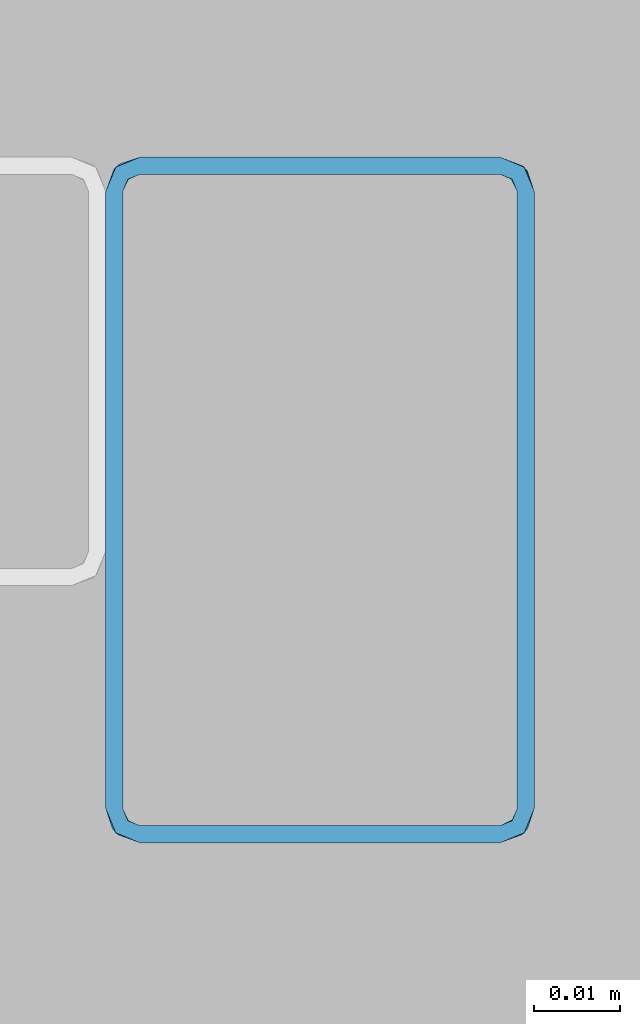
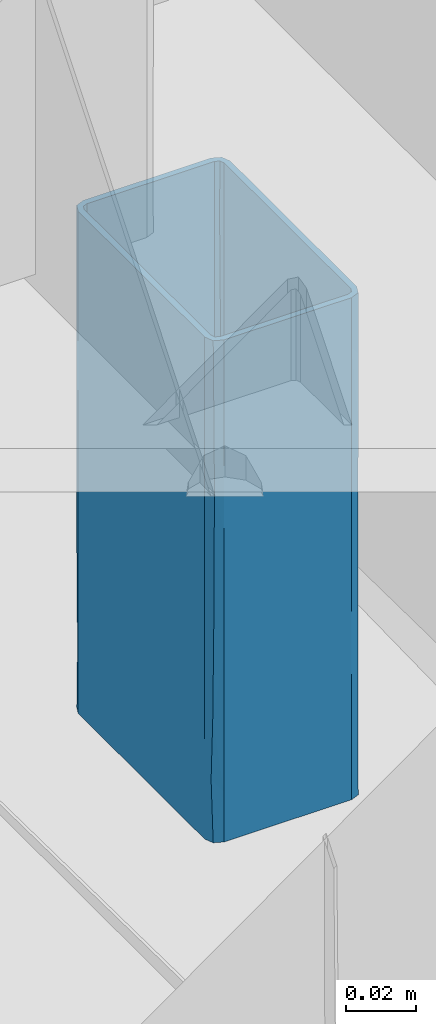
# One storey, part 149 of 186: 1 beam.
"""IFC4X3_ADD2 building model written with IfcOpenShell, lengths in millimetres."""

from ifc_helpers import new_model, si_unit, direction, frame, origin_with_axes, place, context, subcontext, project, spatial, polygons, element, save


model = new_model("IFC4X3_ADD2")

# Units and contexts
model_context = context("Model", 3, precision=1e-05, world=origin_with_axes(), true_north=direction((0.0, 1.0)))
body_context = subcontext(model_context, "Body", "Model", "MODEL_VIEW")
ifc_project = project(units=[si_unit("LENGTHUNIT", "METRE", prefix="MILLI"), si_unit("AREAUNIT", "SQUARE_METRE"), si_unit("VOLUMEUNIT", "CUBIC_METRE"), si_unit("PLANEANGLEUNIT", "RADIAN"), si_unit("TIMEUNIT", "SECOND"), si_unit("MASSUNIT", "GRAM")], contexts=[model_context])

# Site, building, storey
site_placement = place(None, origin_with_axes())
site = spatial("IfcSite", under=ifc_project, at=site_placement, Name="Site", CompositionType="ELEMENT")
building_placement = place(site_placement, origin_with_axes())
building = spatial("IfcBuilding", under=site, at=building_placement, Name="IFC Building Story")
storey_placement = place(building_placement, frame((0.0, 0.0, 4370.0), z_axis=(0.0, 0.0, 1.0), x_axis=(1.0, 0.0, 0.0)))
storey = spatial("IfcBuildingStorey", under=building, at=storey_placement, Name="ETAGE 10 (1)", Elevation=4370.0)

# Beam
beam_placement = place(storey_placement, frame((0.0, 0.0, -4370.0), z_axis=(0.0, 0.0, 1.0), x_axis=(1.0, 0.0, 0.0)))
element("IfcBeam", 1, at=beam_placement, inside=storey, Name="PS9", ObjectType="K50*80*2", context=body_context, shape_type="Tessellation", body=[
    polygons([(48403.18869887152, -14300.99999267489, 7529.38461931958), (48401.18869887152, -14300.99999267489, 7529.38461931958), (48403.77448530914, -14302.41420623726, 7529.38461931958), (48401.18869887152, -14228.99999267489, 7529.38461931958), (48403.18869887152, -14228.99999267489, 7529.38461931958), (48403.77448530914, -14227.58577911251, 7529.38461931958), (48402.36027174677, -14226.17156555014, 7529.38461931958), (48405.18869887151, -14224.99999267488, 7529.38461931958), (48405.18869887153, -14226.99999267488, 7529.38461931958), (48447.18869887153, -14226.99999267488, 7529.38461931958), (48447.18869887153, -14224.99999267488, 7529.38461931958), (48448.6029124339, -14227.58577911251, 7529.38461931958), (48450.01712599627, -14226.17156555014, 7529.38461931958), (48451.18869887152, -14228.99999267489, 7529.38461931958), (48449.18869887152, -14228.99999267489, 7529.38461931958), (48449.18869887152, -14300.99999267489, 7529.38461931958), (48451.18869887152, -14300.99999267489, 7529.38461931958), (48448.6029124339, -14302.41420623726, 7529.38461931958), (48450.01712599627, -14303.82841979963, 7529.38461931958), (48447.18869887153, -14304.99999267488, 7529.38461931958), (48447.18869887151, -14302.99999267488, 7529.38461931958), (48405.18869887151, -14304.99999267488, 7529.38461931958), (48405.18869887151, -14302.99999267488, 7529.38461931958), (48402.36027174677, -14303.82841979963, 7529.38461931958), (48449.18869887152, -14300.99999267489, 7355.004619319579), (48451.18869887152, -14300.99999267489, 7355.004619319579), (48448.6029124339, -14302.41420623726, 7355.004619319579), (48451.18869887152, -14228.99999267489, 7355.004619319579), (48449.18869887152, -14228.99999267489, 7355.004619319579), (48448.6029124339, -14227.58577911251, 7355.004619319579), (48450.01712599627, -14226.17156555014, 7355.004619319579), (48447.18869887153, -14224.99999267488, 7355.004619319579), (48447.18869887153, -14226.99999267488, 7355.004619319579), (48405.18869887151, -14226.99999267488, 7355.004619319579), (48405.18869887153, -14224.99999267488, 7355.004619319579), (48403.77448530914, -14227.58577911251, 7355.004619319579), (48402.36027174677, -14226.17156555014, 7355.004619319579), (48401.18869887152, -14228.99999267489, 7355.004619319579), (48403.18869887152, -14228.99999267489, 7355.004619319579), (48403.18869887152, -14300.99999267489, 7355.004619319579), (48401.18869887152, -14300.99999267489, 7355.004619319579), (48403.77448530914, -14302.41420623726, 7355.004619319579), (48402.36027174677, -14303.82841979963, 7355.004619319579), (48405.18869887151, -14304.99999267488, 7355.004619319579), (48405.18869887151, -14302.99999267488, 7355.004619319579), (48447.18869887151, -14304.99999267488, 7355.004619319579), (48447.18869887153, -14302.99999267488, 7355.004619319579), (48450.01712599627, -14303.82841979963, 7355.004619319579), (48401.18869887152, -14228.99999267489, 7511.926096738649), (48401.18869887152, -14228.99999267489, 7485.789617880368), (48401.18869887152, -14228.99999267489, 7463.992120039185), (48401.18869887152, -14228.99999267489, 7442.19461931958), (48401.18869887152, -14228.99999267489, 7420.397118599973), (48401.18869887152, -14228.99999267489, 7398.599620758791), (48401.18869887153, -14228.99999267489, 7372.463141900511), (48401.18869887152, -14300.99999267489, 7389.921664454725), (48401.18869887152, -14300.99999267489, 7407.277574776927), (48401.18869887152, -14300.99999267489, 7433.414051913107), (48401.18869887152, -14300.99999267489, 7459.550529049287), (48401.18869887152, -14300.99999267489, 7477.009052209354), (48401.18869887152, -14300.99999267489, 7494.467574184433), (48402.2778242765, -14303.74349574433, 7398.599621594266), (48405.18869887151, -14304.99999267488, 7420.397119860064), (48402.49011275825, -14303.95255647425, 7431.295871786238), (48405.18869887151, -14304.99999267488, 7372.463140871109), (48401.9483212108, -14303.34519045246, 7376.72287603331), (48402.53356876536, -14303.99169522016, 7498.857858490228), (48405.18869887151, -14304.99999267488, 7442.19461931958), (48405.18869887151, -14304.99999267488, 7511.926097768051), (48402.55884567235, -14304.01393895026, 7455.854339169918), (48405.18869887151, -14304.99999267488, 7398.59961823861), (48402.62562266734, -14304.07092744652, 7477.36024630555), (48405.18869887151, -14304.99999267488, 7485.789620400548), (48405.18869887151, -14304.99999267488, 7463.992118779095), (48447.18869887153, -14304.99999267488, 7372.463142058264), (48447.18869887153, -14304.99999267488, 7398.59961931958), (48447.18869887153, -14304.99999267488, 7420.397119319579), (48447.18869887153, -14304.99999267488, 7442.19461931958), (48447.18869887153, -14304.99999267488, 7463.992119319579), (48447.18869887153, -14304.99999267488, 7485.789619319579), (48447.18869887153, -14304.99999267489, 7511.926096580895), (48451.18869887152, -14300.99999267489, 7389.921665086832), (48449.84382889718, -14303.9916952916, 7385.53138470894), (48450.09957345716, -14303.7434957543, 7485.789620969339), (48449.88728500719, -14303.95255645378, 7453.093371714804), (48451.18869887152, -14300.99999267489, 7477.111664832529), (48451.18869887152, -14300.99999267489, 7494.467573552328), (48450.42907649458, -14303.34519050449, 7507.666364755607), (48449.81855215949, -14304.01393887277, 7428.534906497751), (48451.18869887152, -14300.99999267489, 7424.83871034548), (48451.18869887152, -14300.99999267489, 7450.975187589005), (48449.7517753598, -14304.07092720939, 7407.028998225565), (48451.18869887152, -14300.99999267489, 7407.380187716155), (48451.18869887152, -14228.99999267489, 7389.92166434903), (48451.18869887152, -14228.99999267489, 7416.058141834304), (48451.18869887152, -14228.99999267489, 7442.19461931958), (48451.18869887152, -14228.99999267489, 7463.992119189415), (48451.18869887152, -14228.99999267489, 7485.789619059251), (48451.18869887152, -14228.99999267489, 7511.926096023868), (48450.18040139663, -14226.344862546, 7498.857859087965), (48450.03662467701, -14226.19119958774, 7472.334605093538), (48447.18869887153, -14224.99999267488, 7494.467574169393), (48450.01712611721, -14226.17156567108, 7398.599623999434), (48450.41884628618, -14226.64072421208, 7376.802122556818), (48449.8427820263, -14226.00736128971, 7446.482292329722), (48449.91510073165, -14226.07309450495, 7422.535377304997), (48447.18869887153, -14224.99999267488, 7433.414050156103), (48447.18869887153, -14224.99999267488, 7389.921664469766), (48447.18869887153, -14224.99999267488, 7407.277572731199), (48447.18869887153, -14224.99999267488, 7459.550527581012), (48405.18869887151, -14224.99999267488, 7389.921665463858), (48405.18869887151, -14224.99999267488, 7407.277574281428), (48405.18869887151, -14224.99999267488, 7433.414051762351), (48405.18869887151, -14224.99999267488, 7459.550529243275), (48405.18869887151, -14224.99999267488, 7477.009051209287), (48405.18869887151, -14224.99999267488, 7494.467574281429), (48402.44519583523, -14226.08911804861, 7398.599622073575), (48402.23613508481, -14226.30140654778, 7431.295872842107), (48402.84350110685, -14225.75961500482, 7376.722876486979), (48402.19699633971, -14226.34486255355, 7498.85785887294), (48402.174752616, -14226.37013945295, 7455.854339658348), (48402.11776412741, -14226.43691643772, 7477.360246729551), (48405.18869887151, -14226.99999267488, 7480.004460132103), (48403.77448535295, -14227.5857790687, 7486.176980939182), (48403.77448534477, -14227.58577907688, 7472.971613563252), (48403.762337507, -14227.5980321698, 7386.463759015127), (48403.69269343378, -14227.67260134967, 7373.522180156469), (48405.18869887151, -14226.99999267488, 7373.909539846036), (48403.18869887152, -14228.99999267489, 7420.397119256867), (48403.18869887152, -14228.99999267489, 7409.498369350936), (48403.73229899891, -14227.62926315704, 7414.947746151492), (48403.75207338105, -14227.6085519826, 7449.141862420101), (48403.18869887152, -14228.99999267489, 7442.19461931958), (48403.90234918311, -14227.46855397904, 7438.221819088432), (48405.18869887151, -14226.99999267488, 7455.314380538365), (48403.84825054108, -14227.51567523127, 7461.00510020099), (48405.18869887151, -14226.99999267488, 7392.814459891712), (48403.18869887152, -14228.99999267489, 7367.349659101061), (48403.18869887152, -14228.99999267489, 7517.039579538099), (48403.18869887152, -14228.99999267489, 7492.34950022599), (48403.18869887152, -14228.99999267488, 7480.004460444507), (48405.18869887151, -14226.99999267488, 7492.349499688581), (48403.82248151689, -14227.53935920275, 7498.522020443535), (48403.84233664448, -14227.5210373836, 7398.285702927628), (48403.18869887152, -14228.99999267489, 7398.599619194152), (48405.18869887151, -14226.99999267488, 7517.039579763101), (48403.77448533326, -14227.5857790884, 7510.867059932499), (48405.18869887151, -14226.99999267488, 7504.694539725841), (48403.18869887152, -14228.99999267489, 7504.694540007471), (48403.18869887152, -14228.99999267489, 7379.694698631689), (48403.18869887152, -14228.99999267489, 7461.099539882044), (48405.18869887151, -14226.99999267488, 7467.659420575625), (48405.18869887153, -14226.99999267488, 7411.719380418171), (48405.18869887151, -14226.99999267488, 7430.624300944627), (48403.69095856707, -14227.67455916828, 7427.406743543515), (48403.18869887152, -14228.99999267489, 7431.295869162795), (48405.18869887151, -14226.99999267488, 7442.969340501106), (48447.18869887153, -14226.99999267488, 7367.349659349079), (48447.18869887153, -14226.99999267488, 7376.802119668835), (48447.18869887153, -14226.99999267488, 7387.700869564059), (48447.18869887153, -14226.99999267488, 7398.599619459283), (48447.18869887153, -14226.99999267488, 7409.498369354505), (48447.18869887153, -14226.99999267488, 7420.397119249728), (48447.18869887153, -14226.99999267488, 7431.295869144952), (48447.18869887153, -14226.99999267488, 7442.194619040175), (48447.18869887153, -14226.99999267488, 7453.093368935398), (48447.18869887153, -14226.99999267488, 7463.992118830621), (48447.18869887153, -14226.99999267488, 7474.890868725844), (48447.18869887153, -14226.99999267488, 7485.789619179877), (48447.18869887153, -14226.99999267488, 7504.694539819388), (48447.18869887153, -14226.99999267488, 7517.039579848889), (48448.49995586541, -14227.48982543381, 7405.362373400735), (48448.53825077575, -14227.52394739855, 7393.150245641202), (48448.57894189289, -14227.56220814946, 7448.441924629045), (48448.69067101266, -14227.67935658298, 7460.874047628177), (48448.4083444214, -14227.41491705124, 7382.566985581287), (48449.18869887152, -14228.99999267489, 7510.479698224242), (48448.5160902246, -14227.50398726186, 7510.867060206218), (48449.18869887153, -14228.99999267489, 7367.349658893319), (48449.18869887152, -14228.99999267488, 7404.384778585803), (48449.18869887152, -14228.99999267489, 7392.039739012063), (48448.67185384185, -14227.658258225, 7422.902339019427), (48449.18869887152, -14228.99999267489, 7379.694698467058), (48448.60291241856, -14227.58577909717, 7372.075889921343), (48448.59065938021, -14227.5736313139, 7497.925482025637), (48448.61548330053, -14227.5984627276, 7435.851234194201), (48449.18869887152, -14228.99999267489, 7429.074858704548), (48449.18869887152, -14228.99999267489, 7416.729818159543), (48449.18869887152, -14228.99999267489, 7441.419898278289), (48449.18869887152, -14228.99999267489, 7491.574778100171), (48448.66617873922, -14227.65201150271, 7480.340245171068), (48449.18869887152, -14228.99999267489, 7472.669857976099), (48449.18869887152, -14228.99999267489, 7453.764937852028), (48449.18869887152, -14300.99999267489, 7367.349659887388), (48449.18869887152, -14300.99999267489, 7376.802119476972), (48449.18869887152, -14300.99999267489, 7387.700868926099), (48449.18869887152, -14300.99999267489, 7398.599619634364), (48449.18869887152, -14300.99999267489, 7409.498370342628), (48449.18869887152, -14300.99999267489, 7420.397119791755), (48449.18869887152, -14300.99999267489, 7431.295869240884), (48449.18869887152, -14300.99999267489, 7442.194619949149), (48449.18869887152, -14300.99999267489, 7453.093370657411), (48449.18869887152, -14300.99999267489, 7463.992120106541), (48449.18869887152, -14300.99999267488, 7474.890869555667), (48449.18869887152, -14300.99999267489, 7485.789620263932), (48449.18869887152, -14300.99999267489, 7504.694540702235), (48449.18869887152, -14300.99999267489, 7517.039580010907), (48448.6988661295, -14302.3112496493, 7405.362373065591), (48448.66474415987, -14302.34954456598, 7393.150245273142), (48448.62648341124, -14302.39023568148, 7448.441924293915), (48448.50933497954, -14302.50196480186, 7460.874047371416), (48448.77377449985, -14302.21963821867, 7382.566985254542), (48447.18869887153, -14302.99999267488, 7510.479699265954), (48448.684704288, -14302.32738402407, 7510.867060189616), (48447.18869887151, -14302.99999267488, 7367.349659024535), (48447.18869887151, -14302.99999267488, 7404.384778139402), (48447.18869887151, -14302.99999267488, 7392.039738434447), (48448.53043334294, -14302.48314762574, 7422.902338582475), (48448.60291244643, -14302.41420622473, 7372.075889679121), (48448.61506023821, -14302.40195317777, 7497.925481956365), (48448.59022884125, -14302.42677708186, 7435.851233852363), (48447.18869887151, -14302.99999267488, 7379.694698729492), (48447.18869887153, -14302.99999267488, 7429.074857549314), (48447.18869887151, -14302.99999267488, 7416.72981784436), (48447.18869887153, -14302.99999267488, 7441.419897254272), (48447.18869887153, -14302.99999267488, 7491.574778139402), (48448.53668005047, -14302.4774725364, 7480.340245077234), (48447.18869887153, -14302.99999267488, 7472.669857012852), (48447.18869887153, -14302.99999267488, 7453.764936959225), (48405.18869887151, -14302.99999267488, 7367.349659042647), (48405.18869887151, -14302.99999267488, 7379.694698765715), (48405.18869887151, -14302.99999267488, 7392.03973848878), (48405.18869887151, -14302.99999267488, 7404.384778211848), (48405.18869887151, -14302.99999267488, 7416.729817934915), (48405.18869887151, -14302.99999267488, 7429.074857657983), (48405.18869887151, -14302.99999267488, 7441.419897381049), (48405.18869887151, -14302.99999267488, 7453.764937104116), (48405.18869887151, -14302.99999267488, 7472.669857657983), (48405.18869887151, -14302.99999267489, 7491.574778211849), (48405.18869887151, -14302.99999267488, 7510.479698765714), (48403.76233749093, -14302.40195316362, 7497.925482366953), (48403.69269344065, -14302.32738400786, 7510.867060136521), (48403.84825044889, -14302.48431003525, 7423.384142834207), (48403.75207328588, -14302.39143326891, 7435.247379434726), (48403.77448535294, -14302.41420628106, 7373.522182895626), (48403.77448537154, -14302.41420629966, 7386.727548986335), (48403.18869887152, -14300.99999267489, 7379.694699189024), (48403.18869887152, -14300.99999267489, 7463.992119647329), (48403.18869887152, -14300.99999267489, 7474.890869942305), (48403.73229892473, -14302.3707221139, 7469.441496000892), (48403.18869887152, -14300.99999267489, 7517.039579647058), (48403.18869887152, -14300.99999267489, 7367.349659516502), (48403.90234900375, -14302.53143122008, 7446.16742321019), (48403.84233657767, -14302.47894790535, 7486.103539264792), (48403.18869887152, -14300.99999267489, 7485.789619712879), (48403.18869887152, -14300.99999267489, 7392.039738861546), (48403.7113880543, -14302.34815911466, 7398.682110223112), (48403.18869887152, -14300.99999267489, 7504.694539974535), (48403.77000637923, -14302.40971307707, 7410.639040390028), (48403.6909585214, -14302.32542612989, 7456.982499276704), (48403.18869887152, -14300.99999267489, 7453.093369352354), (48403.18869887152, -14300.99999267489, 7442.194619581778), (48403.18869887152, -14300.99999267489, 7423.289699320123), (48403.18869887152, -14300.99999267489, 7404.384779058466)], [[[1, 2, 3]], [[2, 1, 4]], [[5, 4, 1]], [[6, 4, 5]], [[7, 4, 6]], [[6, 8, 7]], [[6, 9, 8]], [[8, 9, 10]], [[10, 11, 8]], [[10, 12, 11]], [[11, 12, 13]], [[14, 13, 12]], [[14, 12, 15]], [[14, 15, 16]], [[16, 17, 14]], [[18, 17, 16]], [[17, 18, 19]], [[18, 20, 19]], [[21, 20, 18]], [[20, 21, 22]], [[23, 22, 21]], [[3, 22, 23]], [[22, 3, 24]], [[3, 2, 24]], [[25, 26, 27]], [[26, 25, 28]], [[29, 28, 25]], [[30, 28, 29]], [[31, 28, 30]], [[30, 32, 31]], [[30, 33, 32]], [[32, 33, 34]], [[34, 35, 32]], [[34, 36, 35]], [[35, 36, 37]], [[38, 37, 36]], [[38, 36, 39]], [[38, 39, 40]], [[40, 41, 38]], [[42, 41, 40]], [[41, 42, 43]], [[42, 44, 43]], [[45, 44, 42]], [[44, 45, 46]], [[47, 46, 45]], [[27, 46, 47]], [[46, 27, 48]], [[27, 26, 48]], [[55, 38, 41]], [[55, 41, 56]], [[56, 57, 54]], [[56, 54, 55]], [[57, 58, 53]], [[57, 53, 54]], [[58, 52, 53]], [[58, 59, 51]], [[58, 51, 52]], [[60, 61, 50]], [[50, 51, 59]], [[50, 59, 60]], [[61, 49, 50]], [[61, 2, 4]], [[61, 4, 49]], [[62, 63, 64]], [[65, 62, 66]], [[2, 61, 67]], [[64, 63, 68]], [[69, 22, 24]], [[43, 44, 65]], [[62, 56, 66]], [[70, 59, 58]], [[57, 56, 62]], [[71, 63, 62, 65]], [[24, 2, 67]], [[59, 72, 61, 60]], [[41, 43, 66]], [[58, 64, 70]], [[64, 57, 62]], [[73, 69, 67]], [[64, 68, 70]], [[64, 58, 57]], [[70, 68, 74]], [[73, 67, 72]], [[41, 66, 56]], [[65, 66, 43]], [[24, 67, 69]], [[72, 59, 70]], [[72, 67, 61]], [[72, 74, 73]], [[74, 72, 70]], [[65, 44, 46]], [[65, 46, 75]], [[75, 76, 71]], [[75, 71, 65]], [[76, 77, 63]], [[76, 63, 71]], [[77, 78, 68]], [[77, 68, 63]], [[78, 79, 74]], [[78, 74, 68]], [[79, 80, 73]], [[79, 73, 74]], [[80, 81, 69]], [[80, 69, 73]], [[81, 20, 22]], [[81, 22, 69]], [[26, 82, 83]], [[80, 79, 84, 81]], [[85, 84, 79]], [[86, 87, 84]], [[85, 79, 78]], [[81, 84, 88]], [[84, 87, 88]], [[48, 26, 83]], [[89, 90, 91]], [[90, 92, 82, 93]], [[17, 19, 88]], [[91, 85, 89]], [[75, 83, 76]], [[85, 86, 84]], [[75, 46, 48]], [[19, 20, 81]], [[85, 78, 89]], [[85, 91, 86]], [[89, 78, 77]], [[76, 83, 92]], [[17, 88, 87]], [[81, 88, 19]], [[48, 83, 75]], [[92, 90, 89]], [[92, 83, 82]], [[92, 77, 76]], [[77, 92, 89]], [[82, 26, 28]], [[82, 28, 94]], [[94, 95, 93]], [[94, 93, 82]], [[95, 90, 93]], [[95, 96, 91]], [[95, 91, 90]], [[97, 98, 86]], [[97, 86, 91]], [[91, 96, 97]], [[98, 87, 86]], [[99, 14, 17]], [[99, 17, 87]], [[87, 98, 99]], [[99, 98, 100]], [[101, 102, 100]], [[103, 94, 104]], [[11, 13, 100]], [[31, 104, 28]], [[105, 106, 107]], [[108, 109, 103]], [[97, 105, 101]], [[13, 99, 100]], [[32, 108, 104]], [[101, 105, 110]], [[103, 104, 108]], [[106, 109, 107]], [[13, 14, 99]], [[110, 105, 107]], [[95, 103, 106]], [[95, 94, 103]], [[106, 96, 95]], [[102, 101, 110]], [[97, 96, 105]], [[106, 105, 96]], [[109, 106, 103]], [[101, 100, 98]], [[100, 102, 11]], [[28, 104, 94]], [[104, 31, 32]], [[101, 98, 97]], [[108, 32, 35]], [[108, 35, 111]], [[111, 112, 109]], [[111, 109, 108]], [[112, 113, 107]], [[112, 107, 109]], [[113, 114, 110]], [[113, 110, 107]], [[115, 116, 102]], [[102, 110, 114]], [[102, 114, 115]], [[116, 8, 11]], [[116, 11, 102]], [[117, 53, 118]], [[55, 117, 119]], [[8, 116, 120]], [[118, 53, 52]], [[49, 4, 7]], [[37, 38, 55]], [[117, 111, 119]], [[121, 114, 113]], [[112, 111, 117]], [[54, 53, 117, 55]], [[7, 8, 120]], [[114, 122, 116, 115]], [[35, 37, 119]], [[113, 118, 121]], [[118, 112, 117]], [[50, 49, 120]], [[118, 52, 121]], [[118, 113, 112]], [[121, 52, 51]], [[50, 120, 122]], [[35, 119, 111]], [[55, 119, 37]], [[7, 120, 49]], [[122, 114, 121]], [[122, 120, 116]], [[122, 51, 50]], [[51, 122, 121]], [[123, 124, 125]], [[126, 127, 128]], [[129, 130, 131]], [[132, 133, 134]], [[132, 135, 136]], [[126, 128, 137]], [[138, 39, 36]], [[6, 5, 139]], [[36, 127, 138]], [[125, 124, 140, 141]], [[142, 143, 124]], [[144, 145, 126]], [[142, 124, 123]], [[146, 147, 148]], [[140, 143, 149]], [[36, 34, 128]], [[146, 9, 6]], [[138, 127, 150]], [[147, 6, 139]], [[6, 147, 146]], [[143, 147, 149]], [[143, 142, 148]], [[149, 147, 139]], [[132, 151, 133]], [[152, 123, 125]], [[125, 141, 151]], [[126, 150, 127]], [[128, 127, 36]], [[126, 145, 150]], [[131, 153, 154]], [[124, 143, 140]], [[147, 143, 148]], [[130, 145, 144]], [[135, 152, 136]], [[144, 126, 137]], [[155, 131, 154]], [[144, 137, 153]], [[155, 129, 131]], [[144, 131, 130]], [[153, 131, 144]], [[156, 129, 155]], [[132, 134, 157]], [[135, 132, 157]], [[154, 134, 155]], [[151, 132, 136]], [[136, 125, 151]], [[125, 136, 152]], [[157, 134, 154]], [[133, 156, 134]], [[156, 155, 134]], [[158, 159, 128]], [[128, 34, 33]], [[128, 33, 158]], [[159, 160, 137]], [[159, 137, 128]], [[161, 162, 153]], [[161, 153, 137]], [[137, 160, 161]], [[163, 164, 154]], [[163, 154, 153]], [[153, 162, 163]], [[164, 165, 157]], [[164, 157, 154]], [[165, 166, 135]], [[165, 135, 157]], [[166, 167, 152]], [[166, 152, 135]], [[167, 168, 123]], [[167, 123, 152]], [[168, 169, 142]], [[168, 142, 123]], [[169, 170, 148]], [[169, 148, 142]], [[170, 171, 146]], [[170, 146, 148]], [[171, 10, 9]], [[171, 9, 146]], [[172, 161, 173]], [[166, 174, 175]], [[160, 159, 176]], [[177, 12, 178]], [[15, 12, 177]], [[30, 29, 179]], [[180, 173, 181]], [[172, 182, 162]], [[179, 183, 184]], [[170, 185, 178]], [[165, 186, 174]], [[170, 178, 171]], [[184, 159, 158]], [[158, 33, 30]], [[12, 10, 171]], [[178, 185, 177]], [[184, 183, 176]], [[30, 184, 158]], [[179, 184, 30]], [[160, 176, 173]], [[160, 173, 161]], [[180, 172, 173]], [[183, 181, 176]], [[187, 186, 182]], [[163, 162, 182, 164]], [[188, 182, 172]], [[187, 182, 188]], [[172, 180, 188]], [[186, 164, 182]], [[181, 173, 176]], [[186, 189, 174]], [[171, 178, 12]], [[190, 177, 185]], [[190, 185, 191]], [[185, 170, 169]], [[167, 166, 175, 168]], [[168, 191, 169]], [[191, 175, 192]], [[175, 174, 193]], [[175, 193, 192]], [[175, 191, 168]], [[169, 191, 185]], [[191, 192, 190]], [[193, 174, 189]], [[186, 187, 189]], [[184, 176, 159]], [[162, 161, 172]], [[166, 165, 174]], [[186, 165, 164]], [[179, 29, 25]], [[179, 25, 194]], [[194, 195, 183]], [[194, 183, 179]], [[195, 196, 181]], [[195, 181, 183]], [[197, 198, 180]], [[180, 181, 196]], [[180, 196, 197]], [[198, 199, 188]], [[198, 188, 180]], [[199, 200, 187]], [[199, 187, 188]], [[200, 201, 189]], [[200, 189, 187]], [[201, 202, 193]], [[201, 193, 189]], [[203, 204, 192]], [[192, 193, 202]], [[192, 202, 203]], [[204, 205, 190]], [[204, 190, 192]], [[205, 206, 177]], [[205, 177, 190]], [[207, 16, 15]], [[207, 15, 177]], [[177, 206, 207]], [[208, 197, 209]], [[202, 210, 211]], [[196, 195, 212]], [[213, 18, 214]], [[21, 18, 213]], [[27, 47, 215]], [[216, 209, 217]], [[208, 218, 198]], [[27, 215, 219]], [[206, 220, 214]], [[201, 221, 210]], [[222, 212, 219]], [[206, 214, 207]], [[194, 27, 219, 195]], [[194, 25, 27]], [[18, 16, 207]], [[214, 220, 213]], [[219, 215, 222]], [[196, 212, 209]], [[196, 209, 197]], [[216, 208, 209]], [[222, 217, 212]], [[223, 221, 218]], [[199, 198, 218, 200]], [[224, 218, 208]], [[223, 218, 224]], [[208, 216, 224]], [[221, 200, 218]], [[217, 209, 212]], [[221, 225, 210]], [[207, 214, 18]], [[226, 213, 220]], [[226, 220, 227]], [[220, 206, 205]], [[203, 202, 211, 204]], [[204, 227, 205]], [[227, 211, 228]], [[211, 210, 229]], [[211, 229, 228]], [[211, 227, 204]], [[205, 227, 220]], [[227, 228, 226]], [[229, 210, 225]], [[221, 223, 225]], [[219, 212, 195]], [[198, 197, 208]], [[202, 201, 210]], [[221, 201, 200]], [[215, 47, 45]], [[215, 45, 230]], [[230, 231, 222]], [[230, 222, 215]], [[231, 232, 217]], [[231, 217, 222]], [[232, 233, 216]], [[232, 216, 217]], [[233, 234, 224]], [[233, 224, 216]], [[234, 235, 223]], [[234, 223, 224]], [[235, 236, 225]], [[235, 225, 223]], [[236, 237, 229]], [[236, 229, 225]], [[237, 238, 228]], [[237, 228, 229]], [[238, 239, 226]], [[238, 226, 228]], [[239, 240, 213]], [[239, 213, 226]], [[240, 23, 21]], [[240, 21, 213]], [[241, 242, 240]], [[243, 244, 235]], [[231, 230, 245]], [[246, 245, 247]], [[235, 244, 236]], [[248, 249, 250]], [[251, 1, 3]], [[40, 252, 42]], [[240, 239, 241]], [[253, 236, 244]], [[3, 242, 251]], [[254, 255, 241]], [[246, 256, 257]], [[42, 245, 230]], [[3, 23, 240]], [[230, 45, 42]], [[251, 242, 258]], [[252, 247, 245]], [[42, 252, 245]], [[231, 245, 246]], [[232, 231, 246]], [[257, 259, 233]], [[241, 258, 242]], [[240, 242, 3]], [[241, 255, 258]], [[250, 238, 237]], [[249, 255, 254]], [[233, 232, 257]], [[246, 247, 256]], [[254, 241, 239]], [[260, 250, 237]], [[254, 239, 238]], [[260, 248, 250]], [[254, 250, 249]], [[238, 250, 254]], [[261, 248, 260]], [[262, 253, 244]], [[244, 263, 262]], [[237, 253, 260]], [[243, 259, 263]], [[263, 244, 243]], [[264, 263, 259]], [[243, 234, 259]], [[234, 233, 259]], [[243, 235, 234]], [[257, 264, 259]], [[264, 257, 256]], [[232, 246, 257]], [[236, 253, 237]], [[262, 261, 253]], [[261, 260, 253]], [[252, 40, 39]], [[252, 39, 138]], [[138, 150, 247]], [[138, 247, 252]], [[150, 145, 256]], [[150, 256, 247]], [[145, 130, 264]], [[145, 264, 256]], [[130, 129, 263]], [[130, 263, 264]], [[156, 133, 262]], [[156, 262, 263]], [[263, 129, 156]], [[133, 151, 261]], [[133, 261, 262]], [[151, 248, 261]], [[151, 141, 249]], [[151, 249, 248]], [[141, 255, 249]], [[140, 149, 258]], [[140, 258, 255]], [[255, 141, 140]], [[149, 139, 251]], [[149, 251, 258]], [[139, 5, 1]], [[139, 1, 251]]]),
])

save(model, "model.ifc")
